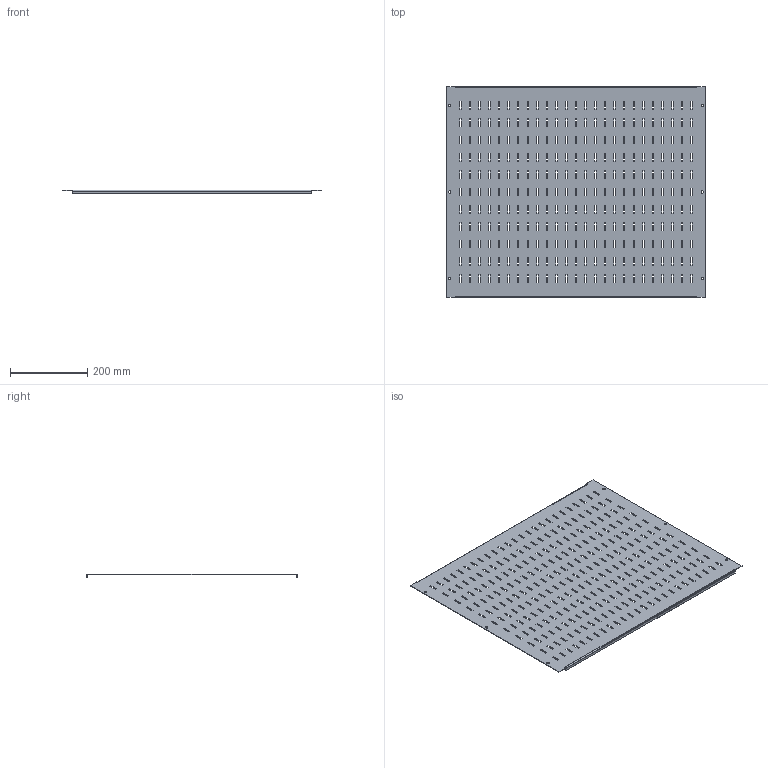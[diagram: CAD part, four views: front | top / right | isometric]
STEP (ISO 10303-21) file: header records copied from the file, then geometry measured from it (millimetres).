
FILE_DESCRIPTION(('STEP AP203'), '1');
FILE_NAME('Ïëàñòðîí ïåðôîðèðîâàííûé 550õ800 ìì OptiBox M 419462 ÊÝÀÇ', '', ('UNSPECIFIED'), ('UNSPECIFIED'), 'C3D Converter', 'C3D Toolkit', '');
FILE_SCHEMA(('CONFIG_CONTROL_DESIGN'));
Length unit declared in the file: millimetre
Bounding box: 672 x 547 x 10 mm (x, y, z)
Volume: 496628.9 mm3; surface area: 731607.3 mm2
Topology: 1 solids, 1 shells, 1140 faces, 3398 edges, 2260 vertices
Faces by surface type: plane 1130, cylinder 10
Full cylindrical faces by diameter (mm): 6.3 x6
Entity records: 38588 total; most frequent: CARTESIAN_POINT 6793, ORIENTED_EDGE 6784, DIRECTION 5694, EDGE_CURVE 3392, LINE 3372, VECTOR 3372, VERTEX_POINT 2260, EDGE_LOOP 1708
